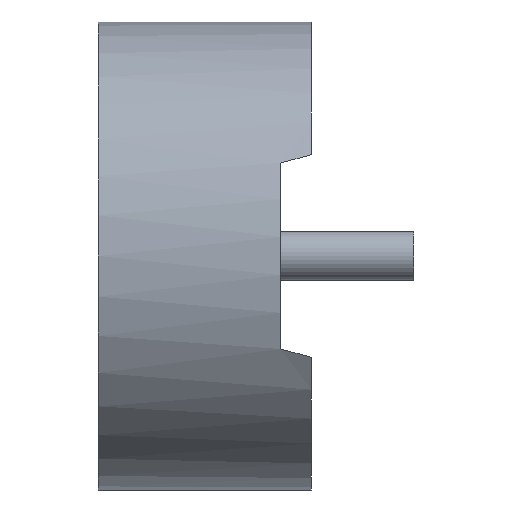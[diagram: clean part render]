
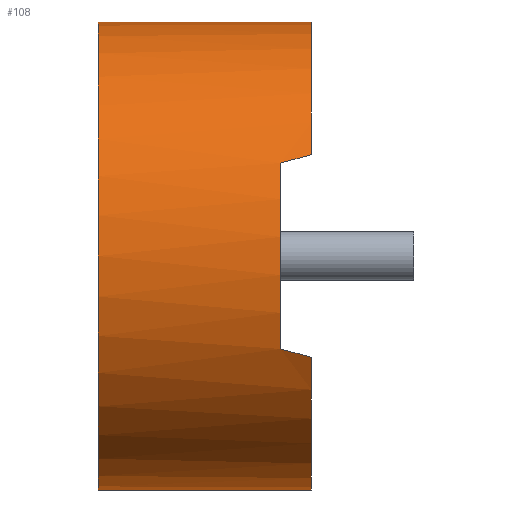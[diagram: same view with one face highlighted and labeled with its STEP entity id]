
A CAD part, left-side view. The second image highlights one B-rep face of the part: STEP entity #108.
In plain terms, the highlighted cylindrical face has radius 9.588 mm (diameter 19.177 mm), a partial arc.
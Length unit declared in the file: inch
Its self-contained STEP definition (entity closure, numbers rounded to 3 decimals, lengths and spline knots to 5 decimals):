
#57 = CARTESIAN_POINT ( 'NONE',  ( 0., 0., 0. ) ) ;
#68 = DIRECTION ( 'NONE',  ( 0., 1., 0. ) ) ;
#69 = EDGE_CURVE ( 'NONE', #496, #328, #991, .T. ) ;
#72 = DIRECTION ( 'NONE',  ( 0., 1., 0. ) ) ;
#73 = CARTESIAN_POINT ( 'NONE',  ( -0.34642, 0.05, 0.15 ) ) ;
#81 = ORIENTED_EDGE ( 'NONE', *, *, #823, .T. ) ;
#108 = ADVANCED_FACE ( 'NONE', ( #472 ), #1276, .T. ) ;
#180 = ORIENTED_EDGE ( 'NONE', *, *, #1200, .T. ) ;
#205 = DIRECTION ( 'NONE',  ( 0., -1., 0. ) ) ;
#209 = CARTESIAN_POINT ( 'NONE',  ( -0.3403, 0., -0.1634 ) ) ;
#212 = VERTEX_POINT ( 'NONE', #1183 ) ;
#229 = EDGE_CURVE ( 'NONE', #503, #1227, #849, .T. ) ;
#238 = EDGE_CURVE ( 'NONE', #847, #212, #976, .T. ) ;
#239 = CARTESIAN_POINT ( 'NONE',  ( -0.3403, 0., -0.1634 ) ) ;
#245 = CIRCLE ( 'NONE', #276, 0.3775 ) ;
#276 = AXIS2_PLACEMENT_3D ( 'NONE', #843, #806, #640 ) ;
#300 = DIRECTION ( 'NONE',  ( 0., -1., 0. ) ) ;
#307 = CARTESIAN_POINT ( 'NONE',  ( 0., 0.344, -0.3775 ) ) ;
#313 = AXIS2_PLACEMENT_3D ( 'NONE', #864, #862, #835 ) ;
#328 = VERTEX_POINT ( 'NONE', #1275 ) ;
#369 = VERTEX_POINT ( 'NONE', #416 ) ;
#415 = CIRCLE ( 'NONE', #816, 0.3775 ) ;
#416 = CARTESIAN_POINT ( 'NONE',  ( 0., 0.344, 0.3775 ) ) ;
#423 = EDGE_CURVE ( 'NONE', #369, #1250, #1172, .T. ) ;
#447 = CARTESIAN_POINT ( 'NONE',  ( -0.34642, 0.05, -0.15 ) ) ;
#450 = CARTESIAN_POINT ( 'NONE',  ( -0.3403, 0., 0.1634 ) ) ;
#472 = FACE_OUTER_BOUND ( 'NONE', #552, .T. ) ;
#496 = VERTEX_POINT ( 'NONE', #559 ) ;
#503 = VERTEX_POINT ( 'NONE', #239 ) ;
#505 = ORIENTED_EDGE ( 'NONE', *, *, #238, .T. ) ;
#506 = ORIENTED_EDGE ( 'NONE', *, *, #423, .F. ) ;
#533 = CARTESIAN_POINT ( 'NONE',  ( -0.34447, 0.03319, -0.15451 ) ) ;
#543 = ORIENTED_EDGE ( 'NONE', *, *, #69, .T. ) ;
#552 = EDGE_LOOP ( 'NONE', ( #506, #869, #505, #81, #1074, #180, #543, #672 ) ) ;
#559 = CARTESIAN_POINT ( 'NONE',  ( -0.34642, 0.05, 0.15 ) ) ;
#595 = CIRCLE ( 'NONE', #954, 0.3775 ) ;
#640 = DIRECTION ( 'NONE',  ( 0., 0., 1. ) ) ;
#672 = ORIENTED_EDGE ( 'NONE', *, *, #1048, .T. ) ;
#673 = CARTESIAN_POINT ( 'NONE',  ( -0.34642, 0.05, -0.15 ) ) ;
#680 = CARTESIAN_POINT ( 'NONE',  ( -0.34243, 0.01652, 0.15897 ) ) ;
#700 = CARTESIAN_POINT ( 'NONE',  ( 0., 0.344, 0.3775 ) ) ;
#724 = CARTESIAN_POINT ( 'NONE',  ( 0., 0.344, -0.3775 ) ) ;
#806 = DIRECTION ( 'NONE',  ( 0., 1., 0. ) ) ;
#816 = AXIS2_PLACEMENT_3D ( 'NONE', #57, #72, #965 ) ;
#821 = CIRCLE ( 'NONE', #313, 0.3775 ) ;
#823 = EDGE_CURVE ( 'NONE', #212, #503, #245, .T. ) ;
#835 = DIRECTION ( 'NONE',  ( 0., 0., 1. ) ) ;
#843 = CARTESIAN_POINT ( 'NONE',  ( 0., 0., 0. ) ) ;
#847 = VERTEX_POINT ( 'NONE', #724 ) ;
#849 =( BOUNDED_CURVE ( )  B_SPLINE_CURVE ( 3, ( #209, #1271, #533, #673 ),
 .UNSPECIFIED., .F., .T. ) 
 B_SPLINE_CURVE_WITH_KNOTS ( ( 4, 4 ),
 ( 1.12315, 1.16217 ),
 .UNSPECIFIED. ) 
 CURVE ( )  GEOMETRIC_REPRESENTATION_ITEM ( )  RATIONAL_B_SPLINE_CURVE ( ( 1., 1., 1., 1. ) ) 
 REPRESENTATION_ITEM ( '' )  );
#862 = DIRECTION ( 'NONE',  ( 0., 1., 0. ) ) ;
#864 = CARTESIAN_POINT ( 'NONE',  ( 0., 0.05, 0. ) ) ;
#869 = ORIENTED_EDGE ( 'NONE', *, *, #1077, .F. ) ;
#870 = CARTESIAN_POINT ( 'NONE',  ( 0., 0., 0.3775 ) ) ;
#909 = DIRECTION ( 'NONE',  ( 0., 0., -1. ) ) ;
#949 = AXIS2_PLACEMENT_3D ( 'NONE', #1222, #205, #909 ) ;
#954 = AXIS2_PLACEMENT_3D ( 'NONE', #962, #68, #1165 ) ;
#962 = CARTESIAN_POINT ( 'NONE',  ( 0., 0.344, 0. ) ) ;
#965 = DIRECTION ( 'NONE',  ( 0., 0., 1. ) ) ;
#968 = CARTESIAN_POINT ( 'NONE',  ( -0.34447, 0.03319, 0.15451 ) ) ;
#976 = LINE ( 'NONE', #307, #1186 ) ;
#991 =( BOUNDED_CURVE ( )  B_SPLINE_CURVE ( 3, ( #73, #968, #680, #450 ),
 .UNSPECIFIED., .F., .T. ) 
 B_SPLINE_CURVE_WITH_KNOTS ( ( 4, 4 ),
 ( 5.12102, 5.16004 ),
 .UNSPECIFIED. ) 
 CURVE ( )  GEOMETRIC_REPRESENTATION_ITEM ( )  RATIONAL_B_SPLINE_CURVE ( ( 1., 1., 1., 1. ) ) 
 REPRESENTATION_ITEM ( '' )  );
#1048 = EDGE_CURVE ( 'NONE', #328, #1250, #415, .T. ) ;
#1063 = DIRECTION ( 'NONE',  ( 0., -1., 0. ) ) ;
#1074 = ORIENTED_EDGE ( 'NONE', *, *, #229, .T. ) ;
#1077 = EDGE_CURVE ( 'NONE', #847, #369, #595, .T. ) ;
#1159 = VECTOR ( 'NONE', #300, 39.37008 ) ;
#1165 = DIRECTION ( 'NONE',  ( 0., 0., 1. ) ) ;
#1172 = LINE ( 'NONE', #700, #1159 ) ;
#1183 = CARTESIAN_POINT ( 'NONE',  ( 0., 0., -0.3775 ) ) ;
#1186 = VECTOR ( 'NONE', #1063, 39.37008 ) ;
#1200 = EDGE_CURVE ( 'NONE', #1227, #496, #821, .T. ) ;
#1222 = CARTESIAN_POINT ( 'NONE',  ( 0., 0.344, 0. ) ) ;
#1227 = VERTEX_POINT ( 'NONE', #447 ) ;
#1250 = VERTEX_POINT ( 'NONE', #870 ) ;
#1271 = CARTESIAN_POINT ( 'NONE',  ( -0.34243, 0.01652, -0.15897 ) ) ;
#1275 = CARTESIAN_POINT ( 'NONE',  ( -0.3403, 0., 0.1634 ) ) ;
#1276 = CYLINDRICAL_SURFACE ( 'NONE', #949, 0.3775 ) ;
